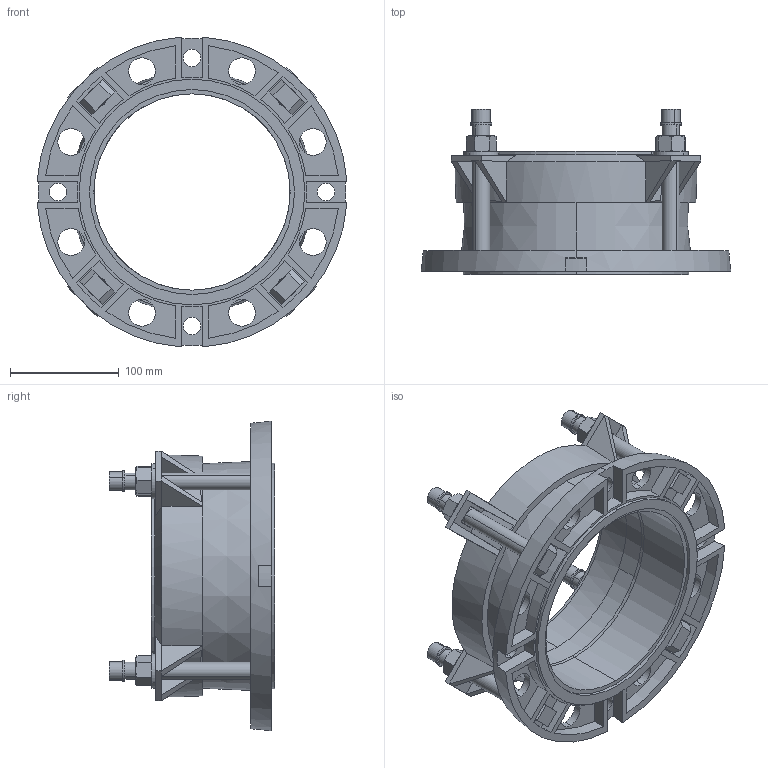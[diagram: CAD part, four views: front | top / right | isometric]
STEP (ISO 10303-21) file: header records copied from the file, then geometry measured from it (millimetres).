
FILE_DESCRIPTION (( 'STEP AP203' ), '1' );
FILE_NAME ('O_623_10_DN150-180mm_X1XXXXX_REV01.step', '2020-04-17T08:54:48', ( '' ), ( '' ), 'SwSTEP 2.0', 'SolidWorks 2019', '' );
FILE_SCHEMA (( 'CONFIG_CONTROL_DESIGN' ));
Length unit declared in the file: millimetre
Products named in the file (1): O_623_10_DN150-180mm_X1XXXXX_REV01
Bounding box: 284.37 x 151.5 x 284.37 mm (x, y, z)
Volume: 1588378.2 mm3; surface area: 303565 mm2
Topology: 1 solids, 1 shells, 453 faces, 1138 edges, 720 vertices
Faces by surface type: plane 230, cylinder 149, cone 72, bspline 2
Entity records: 14212 total; most frequent: CARTESIAN_POINT 3315, ORIENTED_EDGE 2276, DIRECTION 2204, EDGE_CURVE 1138, AXIS2_PLACEMENT_3D 837, VERTEX_POINT 720, EDGE_LOOP 536, VECTOR 530
